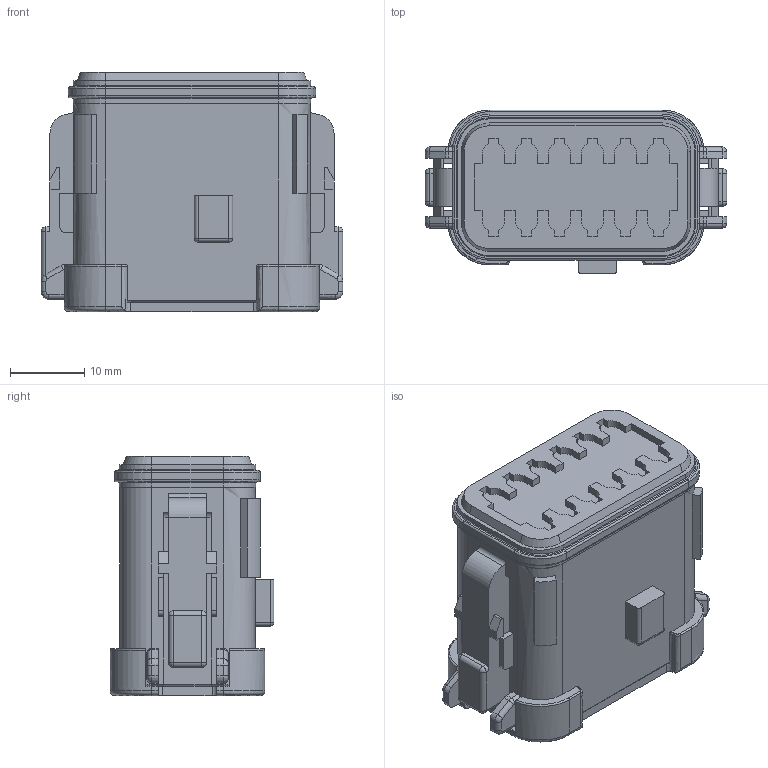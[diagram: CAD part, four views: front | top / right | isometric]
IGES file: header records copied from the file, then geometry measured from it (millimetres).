
Start section:  PTC IGES file: c-dt06-12sa-ep06-99-3d.igs
Global section: file name: c-dt06-12sa-ep06-99-3d.igs; native system: Pro/ENGINEER by Parametric Technology Corporation; preprocessor: 2011490; author: workeradm; organization: Unknown; units: millimetre
Bounding box: 40.56 x 22.05 x 32.21 mm (x, y, z)
Surface area: 6322.1 mm2 (no closed solid volume)
Topology: 0 solids, 0 shells, 702 faces, 3612 edges, 3612 vertices
Faces by surface type: bspline 373, revolution 329
